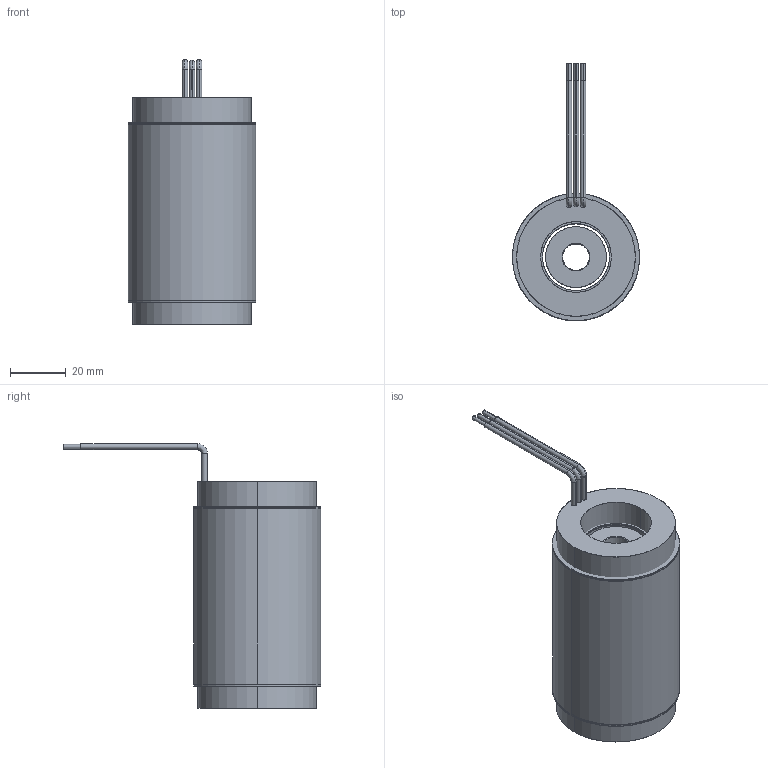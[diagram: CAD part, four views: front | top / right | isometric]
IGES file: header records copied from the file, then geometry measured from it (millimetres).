
Start section: SolidWorks IGES file using analytic representation for surfaces
Global section: file name: \\fs01.aveox.local\user documents\eng\My Documents\STANDARD STATOR ROTOR SETS\Standard rotor and stator set released\1.8 inch stator diameter\6100251-04.IGS; native system: SolidWorks 2016; preprocessor: SolidWorks 2016; author: eng; date: 191111.084731; units: millimetre
Bounding box: 45.72 x 92.54 x 95.12 mm (x, y, z)
Surface area: 53295.8 mm2 (no closed solid volume)
Topology: 0 solids, 0 shells, 76 faces, 1792 edges, 1792 vertices
Faces by surface type: revolution 50, bspline 26
